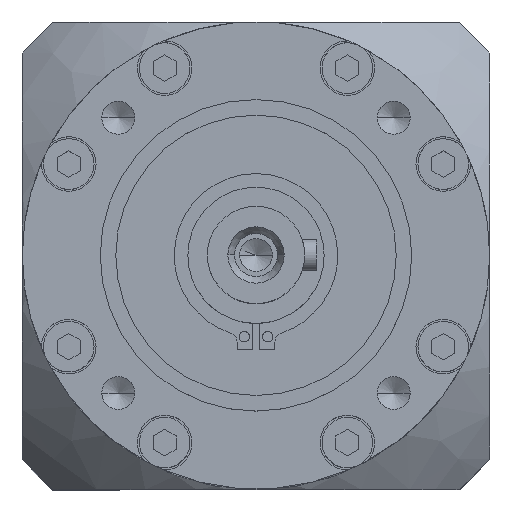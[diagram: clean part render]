
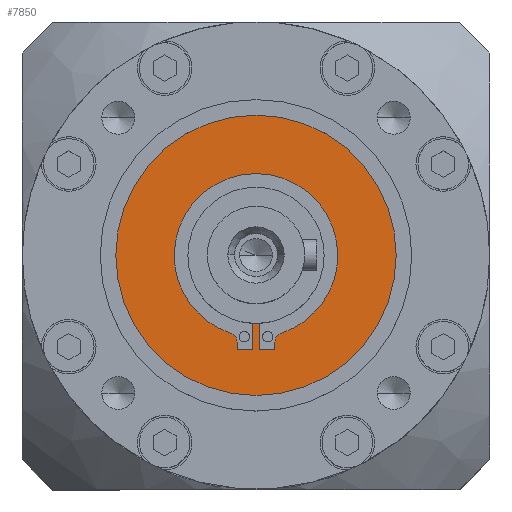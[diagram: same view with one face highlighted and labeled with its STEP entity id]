
A CAD part, top view. The second image highlights one B-rep face of the part: STEP entity #7850.
In plain terms, the highlighted planar face has unit normal (0, 0, 1).
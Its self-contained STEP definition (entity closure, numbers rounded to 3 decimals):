
#350 = AXIS2_PLACEMENT_3D ( 'NONE', #19499, #5171, #21841 ) ;
#531 = VERTEX_POINT ( 'NONE', #23898 ) ;
#1206 = DIRECTION ( 'NONE',  ( 0., 0., 1. ) ) ;
#1513 = ORIENTED_EDGE ( 'NONE', *, *, #19866, .F. ) ;
#1628 = LINE ( 'NONE', #13271, #12044 ) ;
#1850 = ORIENTED_EDGE ( 'NONE', *, *, #2215, .F. ) ;
#1860 = CARTESIAN_POINT ( 'NONE',  ( 0., -24.279, -4. ) ) ;
#1984 = CARTESIAN_POINT ( 'NONE',  ( -21., 0., -4. ) ) ;
#2072 = EDGE_LOOP ( 'NONE', ( #29627, #20343, #1850, #13523, #28862, #19124, #30757, #12419, #27202, #14460, #1513, #12085, #29305, #30517 ) ) ;
#2215 = EDGE_CURVE ( 'NONE', #7758, #9051, #1628, .T. ) ;
#2364 = ORIENTED_EDGE ( 'NONE', *, *, #30419, .T. ) ;
#2803 = VECTOR ( 'NONE', #25546, 1000. ) ;
#2896 = EDGE_LOOP ( 'NONE', ( #28027, #2364 ) ) ;
#3176 = CIRCLE ( 'NONE', #15388, 21. ) ;
#3217 = CARTESIAN_POINT ( 'NONE',  ( 21., 0., -4. ) ) ;
#3228 = EDGE_CURVE ( 'NONE', #4179, #12397, #8329, .T. ) ;
#3350 = DIRECTION ( 'NONE',  ( 1., 0., 0. ) ) ;
#3935 = VERTEX_POINT ( 'NONE', #19882 ) ;
#4179 = VERTEX_POINT ( 'NONE', #16715 ) ;
#4845 = DIRECTION ( 'NONE',  ( -1., 0., 0. ) ) ;
#4915 = DIRECTION ( 'NONE',  ( 0., 0., -1. ) ) ;
#4958 = CARTESIAN_POINT ( 'NONE',  ( 0., 0., -4. ) ) ;
#5069 = EDGE_CURVE ( 'NONE', #11148, #10832, #11044, .T. ) ;
#5171 = DIRECTION ( 'NONE',  ( 0., 0., 1. ) ) ;
#5368 = PLANE ( 'NONE',  #30331 ) ;
#5584 = VECTOR ( 'NONE', #29880, 1000. ) ;
#7178 = DIRECTION ( 'NONE',  ( -1., 0., 0. ) ) ;
#7186 = DIRECTION ( 'NONE',  ( 0., 0., 1. ) ) ;
#7210 = VERTEX_POINT ( 'NONE', #27882 ) ;
#7227 = CARTESIAN_POINT ( 'NONE',  ( 0., 0., -4. ) ) ;
#7462 = VERTEX_POINT ( 'NONE', #17518 ) ;
#7648 = CARTESIAN_POINT ( 'NONE',  ( -4.85, -22.321, -4. ) ) ;
#7758 = VERTEX_POINT ( 'NONE', #7648 ) ;
#7850 = ADVANCED_FACE ( 'NONE', ( #10382, #11259 ), #5368, .F. ) ;
#7895 = CIRCLE ( 'NONE', #27738, 2.5 ) ;
#8221 = DIRECTION ( 'NONE',  ( 0., 0., 1. ) ) ;
#8329 = LINE ( 'NONE', #29906, #5584 ) ;
#8825 = CARTESIAN_POINT ( 'NONE',  ( -4.35, -24.279, -4. ) ) ;
#8978 = CARTESIAN_POINT ( 'NONE',  ( -6.568, -19.946, -4. ) ) ;
#9051 = VERTEX_POINT ( 'NONE', #13343 ) ;
#9266 = VERTEX_POINT ( 'NONE', #8825 ) ;
#9285 = LINE ( 'NONE', #16130, #2803 ) ;
#10211 = EDGE_CURVE ( 'NONE', #10832, #28263, #3176, .T. ) ;
#10382 = FACE_BOUND ( 'NONE', #2072, .T. ) ;
#10460 = DIRECTION ( 'NONE',  ( -1., 0., 0. ) ) ;
#10489 = DIRECTION ( 'NONE',  ( 0., 0., -1. ) ) ;
#10496 = CARTESIAN_POINT ( 'NONE',  ( -7.35, -22.321, -4. ) ) ;
#10598 = EDGE_CURVE ( 'NONE', #9051, #9266, #25648, .T. ) ;
#10832 = VERTEX_POINT ( 'NONE', #17834 ) ;
#11000 = EDGE_CURVE ( 'NONE', #9266, #23321, #26578, .T. ) ;
#11022 = VECTOR ( 'NONE', #3350, 1000. ) ;
#11044 = CIRCLE ( 'NONE', #30657, 2.5 ) ;
#11148 = VERTEX_POINT ( 'NONE', #14440 ) ;
#11259 = FACE_OUTER_BOUND ( 'NONE', #2896, .T. ) ;
#11439 = AXIS2_PLACEMENT_3D ( 'NONE', #22437, #8221, #24774 ) ;
#12044 = VECTOR ( 'NONE', #12839, 1000. ) ;
#12085 = ORIENTED_EDGE ( 'NONE', *, *, #3228, .F. ) ;
#12397 = VERTEX_POINT ( 'NONE', #25639 ) ;
#12419 = ORIENTED_EDGE ( 'NONE', *, *, #5069, .F. ) ;
#12543 = AXIS2_PLACEMENT_3D ( 'NONE', #21373, #21353, #21346 ) ;
#12839 = DIRECTION ( 'NONE',  ( 0., -1., 0. ) ) ;
#13175 = CARTESIAN_POINT ( 'NONE',  ( 0., 0., -4. ) ) ;
#13271 = CARTESIAN_POINT ( 'NONE',  ( -4.85, 0., -4. ) ) ;
#13343 = CARTESIAN_POINT ( 'NONE',  ( -4.85, -23.779, -4. ) ) ;
#13511 = CIRCLE ( 'NONE', #11439, 0.5 ) ;
#13523 = ORIENTED_EDGE ( 'NONE', *, *, #19335, .F. ) ;
#14104 = AXIS2_PLACEMENT_3D ( 'NONE', #19904, #20208, #21640 ) ;
#14440 = CARTESIAN_POINT ( 'NONE',  ( 4.85, -22.321, -4. ) ) ;
#14460 = ORIENTED_EDGE ( 'NONE', *, *, #25018, .F. ) ;
#15388 = AXIS2_PLACEMENT_3D ( 'NONE', #27275, #27251, #27220 ) ;
#15581 = DIRECTION ( 'NONE',  ( -1., 0., 0. ) ) ;
#15771 = CARTESIAN_POINT ( 'NONE',  ( 0., 0., -4. ) ) ;
#15985 = DIRECTION ( 'NONE',  ( 1., 0., 0. ) ) ;
#16130 = CARTESIAN_POINT ( 'NONE',  ( -0.85, 0., -4. ) ) ;
#16226 = CARTESIAN_POINT ( 'NONE',  ( 0., -24.279, -4. ) ) ;
#16715 = CARTESIAN_POINT ( 'NONE',  ( 0.85, -17.479, -4. ) ) ;
#17132 = AXIS2_PLACEMENT_3D ( 'NONE', #7227, #7186, #7178 ) ;
#17518 = CARTESIAN_POINT ( 'NONE',  ( 4.85, -23.779, -4. ) ) ;
#17618 = CIRCLE ( 'NONE', #17132, 17.5 ) ;
#17834 = CARTESIAN_POINT ( 'NONE',  ( 6.568, -19.946, -4. ) ) ;
#18119 = DIRECTION ( 'NONE',  ( 1., 0., 0. ) ) ;
#18293 = LINE ( 'NONE', #1860, #11022 ) ;
#18608 = CARTESIAN_POINT ( 'NONE',  ( -0.85, -24.279, -4. ) ) ;
#19124 = ORIENTED_EDGE ( 'NONE', *, *, #28147, .F. ) ;
#19335 = EDGE_CURVE ( 'NONE', #22836, #7758, #7895, .T. ) ;
#19499 = CARTESIAN_POINT ( 'NONE',  ( 0., 0., -4. ) ) ;
#19522 = EDGE_CURVE ( 'NONE', #3935, #4179, #17618, .T. ) ;
#19678 = CIRCLE ( 'NONE', #14104, 36. ) ;
#19748 = DIRECTION ( 'NONE',  ( 0., 0., -1. ) ) ;
#19866 = EDGE_CURVE ( 'NONE', #12397, #7210, #18293, .T. ) ;
#19882 = CARTESIAN_POINT ( 'NONE',  ( -0.85, -17.479, -4. ) ) ;
#19904 = CARTESIAN_POINT ( 'NONE',  ( 0., 0., -4. ) ) ;
#20208 = DIRECTION ( 'NONE',  ( 0., 0., 1. ) ) ;
#20343 = ORIENTED_EDGE ( 'NONE', *, *, #10598, .F. ) ;
#20537 = CARTESIAN_POINT ( 'NONE',  ( 4.85, 0., -4. ) ) ;
#21346 = DIRECTION ( 'NONE',  ( -1., 0., 0. ) ) ;
#21353 = DIRECTION ( 'NONE',  ( 0., 0., 1. ) ) ;
#21373 = CARTESIAN_POINT ( 'NONE',  ( -4.35, -23.779, -4. ) ) ;
#21640 = DIRECTION ( 'NONE',  ( 1., 0., 0. ) ) ;
#21841 = DIRECTION ( 'NONE',  ( -1., 0., 0. ) ) ;
#22063 = EDGE_CURVE ( 'NONE', #24884, #531, #19678, .T. ) ;
#22415 = VECTOR ( 'NONE', #22903, 1000. ) ;
#22437 = CARTESIAN_POINT ( 'NONE',  ( 4.35, -23.779, -4. ) ) ;
#22661 = CARTESIAN_POINT ( 'NONE',  ( 7.35, -22.321, -4. ) ) ;
#22836 = VERTEX_POINT ( 'NONE', #8978 ) ;
#22903 = DIRECTION ( 'NONE',  ( 0., 1., 0. ) ) ;
#23321 = VERTEX_POINT ( 'NONE', #18608 ) ;
#23898 = CARTESIAN_POINT ( 'NONE',  ( -36., 0., -4. ) ) ;
#24160 = CARTESIAN_POINT ( 'NONE',  ( 36., 0., -4. ) ) ;
#24774 = DIRECTION ( 'NONE',  ( -1., 0., 0. ) ) ;
#24851 = CIRCLE ( 'NONE', #26154, 36. ) ;
#24884 = VERTEX_POINT ( 'NONE', #24160 ) ;
#25018 = EDGE_CURVE ( 'NONE', #7210, #7462, #13511, .T. ) ;
#25546 = DIRECTION ( 'NONE',  ( 0., 1., 0. ) ) ;
#25592 = EDGE_CURVE ( 'NONE', #23321, #3935, #9285, .T. ) ;
#25639 = CARTESIAN_POINT ( 'NONE',  ( 0.85, -24.279, -4. ) ) ;
#25648 = CIRCLE ( 'NONE', #12543, 0.5 ) ;
#26154 = AXIS2_PLACEMENT_3D ( 'NONE', #15771, #1206, #18119 ) ;
#26189 = CIRCLE ( 'NONE', #350, 21. ) ;
#26578 = LINE ( 'NONE', #16226, #26675 ) ;
#26675 = VECTOR ( 'NONE', #15985, 1000. ) ;
#27202 = ORIENTED_EDGE ( 'NONE', *, *, #29528, .F. ) ;
#27220 = DIRECTION ( 'NONE',  ( -1., 0., 0. ) ) ;
#27237 = VERTEX_POINT ( 'NONE', #1984 ) ;
#27251 = DIRECTION ( 'NONE',  ( 0., 0., 1. ) ) ;
#27275 = CARTESIAN_POINT ( 'NONE',  ( 0., 0., -4. ) ) ;
#27476 = DIRECTION ( 'NONE',  ( -1., 0., 0. ) ) ;
#27738 = AXIS2_PLACEMENT_3D ( 'NONE', #10496, #10489, #10460 ) ;
#27882 = CARTESIAN_POINT ( 'NONE',  ( 4.35, -24.279, -4. ) ) ;
#28027 = ORIENTED_EDGE ( 'NONE', *, *, #22063, .T. ) ;
#28147 = EDGE_CURVE ( 'NONE', #28263, #27237, #26189, .T. ) ;
#28263 = VERTEX_POINT ( 'NONE', #3217 ) ;
#28621 = LINE ( 'NONE', #20537, #22415 ) ;
#28750 = EDGE_CURVE ( 'NONE', #27237, #22836, #30802, .T. ) ;
#28862 = ORIENTED_EDGE ( 'NONE', *, *, #28750, .F. ) ;
#29305 = ORIENTED_EDGE ( 'NONE', *, *, #19522, .F. ) ;
#29528 = EDGE_CURVE ( 'NONE', #7462, #11148, #28621, .T. ) ;
#29597 = DIRECTION ( 'NONE',  ( 0., 0., 1. ) ) ;
#29627 = ORIENTED_EDGE ( 'NONE', *, *, #11000, .F. ) ;
#29880 = DIRECTION ( 'NONE',  ( 0., -1., 0. ) ) ;
#29906 = CARTESIAN_POINT ( 'NONE',  ( 0.85, 0., -4. ) ) ;
#29981 = AXIS2_PLACEMENT_3D ( 'NONE', #13175, #29597, #15581 ) ;
#30331 = AXIS2_PLACEMENT_3D ( 'NONE', #4958, #4915, #4845 ) ;
#30419 = EDGE_CURVE ( 'NONE', #531, #24884, #24851, .T. ) ;
#30517 = ORIENTED_EDGE ( 'NONE', *, *, #25592, .F. ) ;
#30657 = AXIS2_PLACEMENT_3D ( 'NONE', #22661, #19748, #27476 ) ;
#30757 = ORIENTED_EDGE ( 'NONE', *, *, #10211, .F. ) ;
#30802 = CIRCLE ( 'NONE', #29981, 21. ) ;
